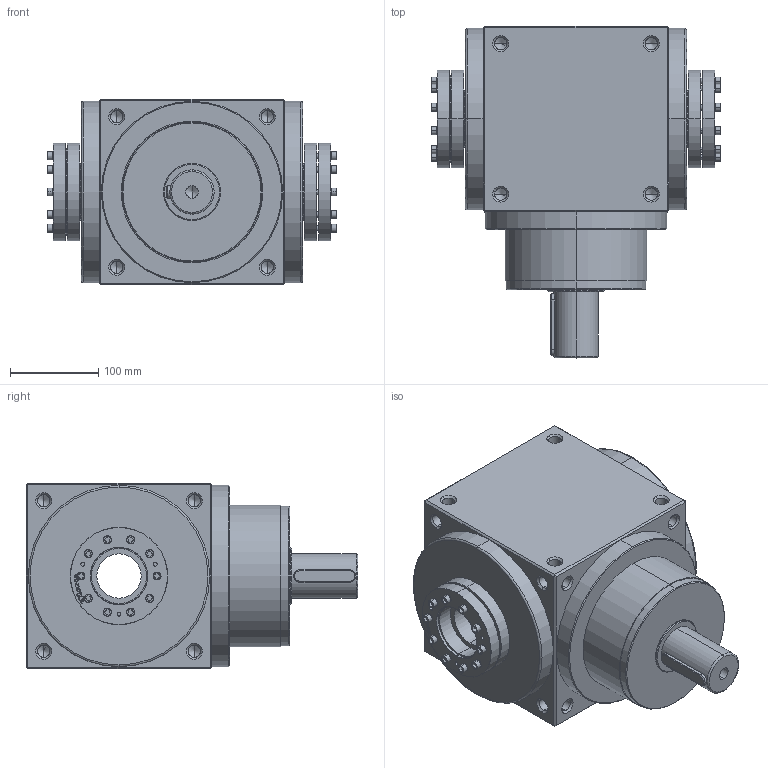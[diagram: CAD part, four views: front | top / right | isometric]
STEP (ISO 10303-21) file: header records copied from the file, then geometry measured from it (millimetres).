
FILE_DESCRIPTION (( 'STEP AP214' ), '1' );
FILE_NAME ('AT210-L1-001.STEP', '2020-11-18T08:57:08', ( '微软用户' ), ( '微软中国' ), 'SwSTEP 2.0', 'SolidWorks 2014', '' );
FILE_SCHEMA (( 'AUTOMOTIVE_DESIGN' ));
Length unit declared in the file: millimetre
Products named in the file (2): AT210-L1-001
Bounding box: 327.2 x 375 x 210 mm (x, y, z)
Volume: 12518062.6 mm3; surface area: 533636 mm2
Topology: 27 solids, 27 shells, 1400 faces, 3384 edges, 2049 vertices
Faces by surface type: cylinder 620, plane 340, cone 322, bspline 72, torus 46
Entity records: 48401 total; most frequent: CARTESIAN_POINT 13177, DIRECTION 6786, ORIENTED_EDGE 6668, EDGE_CURVE 3334, AXIS2_PLACEMENT_3D 2616, VERTEX_POINT 2049, EDGE_LOOP 1599, LINE 1554
